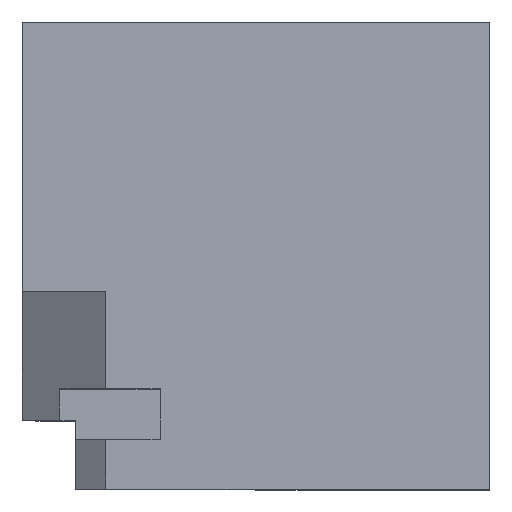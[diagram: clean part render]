
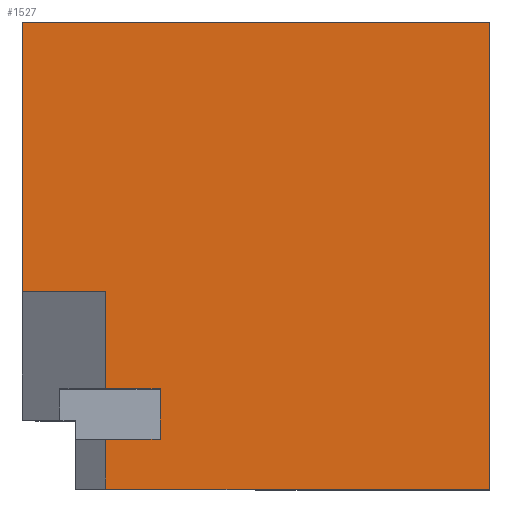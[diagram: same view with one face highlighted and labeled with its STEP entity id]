
A CAD part, top view. The second image highlights one B-rep face of the part: STEP entity #1527.
In plain terms, the highlighted planar face has unit normal (0, 0, 1).
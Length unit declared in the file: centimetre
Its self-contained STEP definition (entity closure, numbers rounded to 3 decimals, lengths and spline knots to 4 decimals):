
#42 = PLANE ( 'NONE',  #269 ) ;
#50 = ORIENTED_EDGE ( 'NONE', *, *, #1358, .T. ) ;
#76 = CARTESIAN_POINT ( 'NONE',  ( 0., 423.5106, 1000. ) ) ;
#100 = ORIENTED_EDGE ( 'NONE', *, *, #549, .T. ) ;
#128 = LINE ( 'NONE', #146, #639 ) ;
#138 = CARTESIAN_POINT ( 'NONE',  ( 178.3494, 423.5106, 1000. ) ) ;
#139 = EDGE_CURVE ( 'NONE', #177, #1152, #958, .T. ) ;
#146 = CARTESIAN_POINT ( 'NONE',  ( 0., 0., 1000. ) ) ;
#168 = CARTESIAN_POINT ( 'NONE',  ( 1000., 1000., 1000. ) ) ;
#177 = VERTEX_POINT ( 'NONE', #1265 ) ;
#198 = LINE ( 'NONE', #307, #889 ) ;
#230 = DIRECTION ( 'NONE',  ( -1., 0., 0. ) ) ;
#238 = DIRECTION ( 'NONE',  ( 0., -1., 0. ) ) ;
#269 = AXIS2_PLACEMENT_3D ( 'NONE', #788, #1022, #672 ) ;
#307 = CARTESIAN_POINT ( 'NONE',  ( 294.6244, 106.8194, 1000. ) ) ;
#337 = EDGE_CURVE ( 'NONE', #1396, #1289, #773, .T. ) ;
#339 = CARTESIAN_POINT ( 'NONE',  ( 294.6244, 106.8194, 1000. ) ) ;
#387 = ORIENTED_EDGE ( 'NONE', *, *, #953, .T. ) ;
#393 = CARTESIAN_POINT ( 'NONE',  ( 1000., 0., 1000. ) ) ;
#397 = EDGE_LOOP ( 'NONE', ( #1454, #706, #682, #50, #387, #977, #1096, #1566, #484, #100 ) ) ;
#432 = EDGE_CURVE ( 'NONE', #1523, #1273, #930, .T. ) ;
#484 = ORIENTED_EDGE ( 'NONE', *, *, #1487, .F. ) ;
#514 = VERTEX_POINT ( 'NONE', #1570 ) ;
#519 = CARTESIAN_POINT ( 'NONE',  ( 178.3494, 423.5106, 1000. ) ) ;
#549 = EDGE_CURVE ( 'NONE', #1385, #852, #740, .T. ) ;
#592 = DIRECTION ( 'NONE',  ( -1., 0., 0. ) ) ;
#600 = EDGE_CURVE ( 'NONE', #514, #852, #955, .T. ) ;
#603 = CARTESIAN_POINT ( 'NONE',  ( 0., 1000., 1000. ) ) ;
#639 = VECTOR ( 'NONE', #1368, 100. ) ;
#669 = VERTEX_POINT ( 'NONE', #800 ) ;
#672 = DIRECTION ( 'NONE',  ( 1., 0., 0. ) ) ;
#682 = ORIENTED_EDGE ( 'NONE', *, *, #432, .F. ) ;
#693 = CARTESIAN_POINT ( 'NONE',  ( 0., 1000., 1000. ) ) ;
#698 = VECTOR ( 'NONE', #1476, 100. ) ;
#706 = ORIENTED_EDGE ( 'NONE', *, *, #1099, .F. ) ;
#722 = CARTESIAN_POINT ( 'NONE',  ( 178.3494, 215.3485, 1000. ) ) ;
#740 = LINE ( 'NONE', #138, #1472 ) ;
#773 = LINE ( 'NONE', #168, #1262 ) ;
#774 = LINE ( 'NONE', #519, #829 ) ;
#788 = CARTESIAN_POINT ( 'NONE',  ( 0., 0., 1000. ) ) ;
#800 = CARTESIAN_POINT ( 'NONE',  ( 178.3494, 0., 1000. ) ) ;
#808 = LINE ( 'NONE', #693, #987 ) ;
#809 = EDGE_CURVE ( 'NONE', #1289, #177, #808, .T. ) ;
#829 = VECTOR ( 'NONE', #1514, 100. ) ;
#836 = VECTOR ( 'NONE', #592, 100. ) ;
#852 = VERTEX_POINT ( 'NONE', #722 ) ;
#889 = VECTOR ( 'NONE', #1168, 100. ) ;
#907 = FACE_OUTER_BOUND ( 'NONE', #397, .T. ) ;
#930 = LINE ( 'NONE', #1284, #1185 ) ;
#953 = EDGE_CURVE ( 'NONE', #669, #1396, #128, .T. ) ;
#954 = VECTOR ( 'NONE', #1101, 100. ) ;
#955 = LINE ( 'NONE', #1107, #836 ) ;
#958 = LINE ( 'NONE', #603, #698 ) ;
#977 = ORIENTED_EDGE ( 'NONE', *, *, #337, .T. ) ;
#981 = CARTESIAN_POINT ( 'NONE',  ( 178.3494, 423.5106, 1000. ) ) ;
#987 = VECTOR ( 'NONE', #230, 100. ) ;
#1022 = DIRECTION ( 'NONE',  ( 0., 0., 1. ) ) ;
#1096 = ORIENTED_EDGE ( 'NONE', *, *, #809, .T. ) ;
#1099 = EDGE_CURVE ( 'NONE', #1273, #514, #198, .T. ) ;
#1101 = DIRECTION ( 'NONE',  ( 0., -1., 0. ) ) ;
#1107 = CARTESIAN_POINT ( 'NONE',  ( 80.1001, 215.3485, 1000. ) ) ;
#1152 = VERTEX_POINT ( 'NONE', #76 ) ;
#1168 = DIRECTION ( 'NONE',  ( 0., 1., 0. ) ) ;
#1185 = VECTOR ( 'NONE', #1417, 100. ) ;
#1262 = VECTOR ( 'NONE', #1503, 100. ) ;
#1265 = CARTESIAN_POINT ( 'NONE',  ( 0., 1000., 1000. ) ) ;
#1273 = VERTEX_POINT ( 'NONE', #339 ) ;
#1284 = CARTESIAN_POINT ( 'NONE',  ( 80.1001, 106.8194, 1000. ) ) ;
#1289 = VERTEX_POINT ( 'NONE', #1421 ) ;
#1331 = CARTESIAN_POINT ( 'NONE',  ( 178.3494, 423.5106, 1000. ) ) ;
#1358 = EDGE_CURVE ( 'NONE', #1523, #669, #1484, .T. ) ;
#1368 = DIRECTION ( 'NONE',  ( 1., 0., 0. ) ) ;
#1385 = VERTEX_POINT ( 'NONE', #1331 ) ;
#1396 = VERTEX_POINT ( 'NONE', #393 ) ;
#1417 = DIRECTION ( 'NONE',  ( 1., 0., 0. ) ) ;
#1421 = CARTESIAN_POINT ( 'NONE',  ( 1000., 1000., 1000. ) ) ;
#1454 = ORIENTED_EDGE ( 'NONE', *, *, #600, .F. ) ;
#1472 = VECTOR ( 'NONE', #238, 100. ) ;
#1476 = DIRECTION ( 'NONE',  ( 0., -1., 0. ) ) ;
#1484 = LINE ( 'NONE', #981, #954 ) ;
#1487 = EDGE_CURVE ( 'NONE', #1385, #1152, #774, .T. ) ;
#1503 = DIRECTION ( 'NONE',  ( 0., 1., 0. ) ) ;
#1514 = DIRECTION ( 'NONE',  ( -1., 0., 0. ) ) ;
#1523 = VERTEX_POINT ( 'NONE', #1528 ) ;
#1527 = ADVANCED_FACE ( 'NONE', ( #907 ), #42, .T. ) ;
#1528 = CARTESIAN_POINT ( 'NONE',  ( 178.3494, 106.8194, 1000. ) ) ;
#1566 = ORIENTED_EDGE ( 'NONE', *, *, #139, .T. ) ;
#1570 = CARTESIAN_POINT ( 'NONE',  ( 294.6244, 215.3485, 1000. ) ) ;
